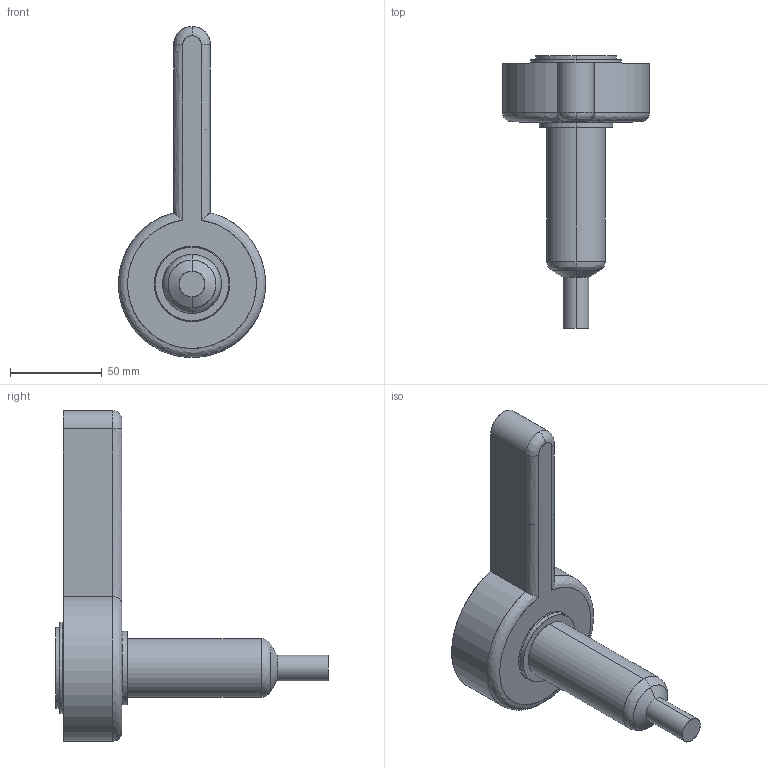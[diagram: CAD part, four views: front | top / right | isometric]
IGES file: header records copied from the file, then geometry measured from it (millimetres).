
Start section: SolidWorks IGES file using analytic representation for surfaces
Global section: file name: C:\Documents and Settings\ws-20\Desktop\TEM\Sede UGBE4502-S-A C-84 L-121 P-25.IGS; native system: SolidWorks 2012; preprocessor: SolidWorks 2012; author: ws-20; date: 120412.155715; units: millimetre
Bounding box: 79.97 x 148.21 x 180 mm (x, y, z)
Surface area: 37056.3 mm2 (no closed solid volume)
Topology: 0 solids, 0 shells, 34 faces, 788 edges, 788 vertices
Faces by surface type: revolution 21, bspline 13
